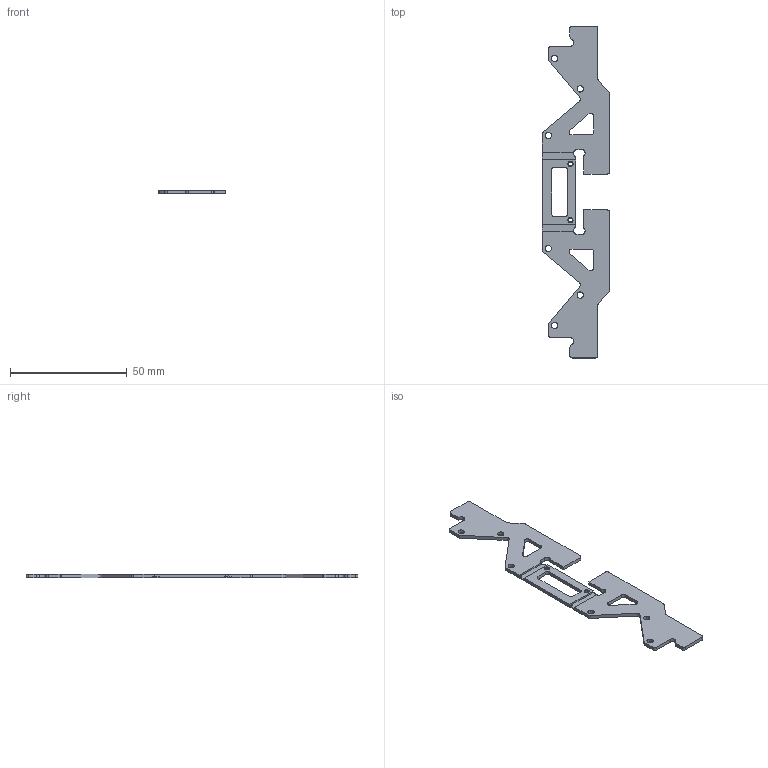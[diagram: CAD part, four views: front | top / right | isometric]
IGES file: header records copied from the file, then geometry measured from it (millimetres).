
Global section: file name: C:\Users\Knabe\Documents\Classes\8 Semester 8\DARwIn\Deliverables\DARwIn OP\DARwIn OP Part Files\CAD 2D\2D IGS\1_PR13_B01_BRKT_CAM.igs; native system: NX V7.0; preprocessor: SIEMENS PLM Software NX 7.0; date: 20110525.171216; units: millimetre
Bounding box: 28.75 x 142.13 x 1.5 mm (x, y, z)
Surface area: 5776.4 mm2 (no closed solid volume)
Topology: 0 solids, 0 shells, 125 faces, 903 edges, 955 vertices
Faces by surface type: bspline 125
